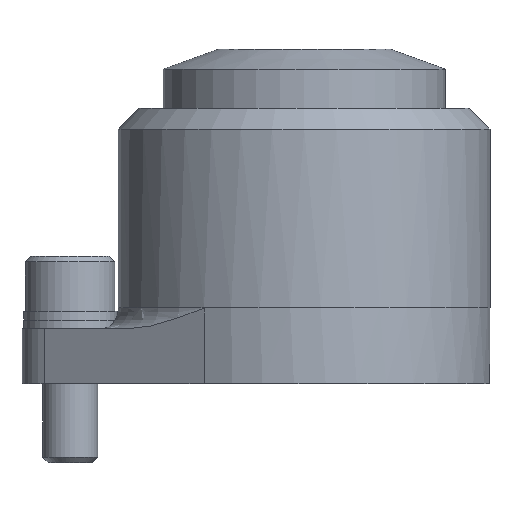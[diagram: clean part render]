
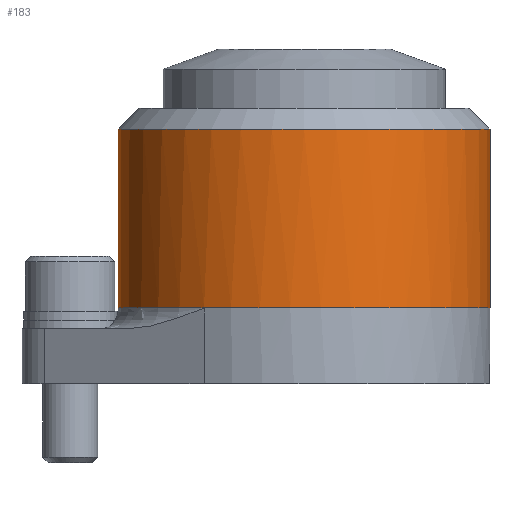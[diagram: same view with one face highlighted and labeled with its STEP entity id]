
A CAD part, front view. The second image highlights one B-rep face of the part: STEP entity #183.
In plain terms, the highlighted cylindrical face has radius 27 mm (diameter 54 mm), a partial arc.
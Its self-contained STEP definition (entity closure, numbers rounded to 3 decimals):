
#183=ADVANCED_FACE('',(#294),#256,.T.);
#256=CYLINDRICAL_SURFACE('',#1296,27.);
#294=FACE_OUTER_BOUND('',#356,.T.);
#356=EDGE_LOOP('',(#559,#560,#561,#562,#563));
#440=CIRCLE('',#1271,27.);
#458=CIRCLE('',#1294,27.);
#459=CIRCLE('',#1295,27.);
#559=ORIENTED_EDGE('',*,*,#963,.T.);
#560=ORIENTED_EDGE('',*,*,#988,.T.);
#561=ORIENTED_EDGE('',*,*,#989,.F.);
#562=ORIENTED_EDGE('',*,*,#986,.F.);
#563=ORIENTED_EDGE('',*,*,#990,.T.);
#857=VERTEX_POINT('',#1835);
#858=VERTEX_POINT('',#1837);
#876=VERTEX_POINT('',#1881);
#877=VERTEX_POINT('',#1883);
#878=VERTEX_POINT('',#1885);
#963=EDGE_CURVE('',#858,#857,#440,.T.);
#986=EDGE_CURVE('',#876,#877,#1132,.T.);
#988=EDGE_CURVE('',#857,#878,#1133,.T.);
#989=EDGE_CURVE('',#877,#878,#458,.T.);
#990=EDGE_CURVE('',#876,#858,#459,.T.);
#1132=LINE('',#1882,#1204);
#1133=LINE('',#1886,#1205);
#1204=VECTOR('',#1485,1.);
#1205=VECTOR('',#1488,1.);
#1271=AXIS2_PLACEMENT_3D('',#1836,#1437,#1438);
#1294=AXIS2_PLACEMENT_3D('',#1888,#1491,#1492);
#1295=AXIS2_PLACEMENT_3D('',#1889,#1493,#1494);
#1296=AXIS2_PLACEMENT_3D('',#1890,#1495,#1496);
#1437=DIRECTION('',(0.,0.,1.));
#1438=DIRECTION('',(-1.,0.,0.));
#1485=DIRECTION('',(0.,0.,1.));
#1488=DIRECTION('',(0.,0.,1.));
#1491=DIRECTION('',(0.,0.,1.));
#1492=DIRECTION('',(0.,1.,0.));
#1493=DIRECTION('',(0.,0.,1.));
#1494=DIRECTION('',(0.,1.,0.));
#1495=DIRECTION('',(0.,0.,1.));
#1496=DIRECTION('',(0.,-1.,0.));
#1835=CARTESIAN_POINT('',(27.,0.,11.));
#1836=CARTESIAN_POINT('',(0.,0.,11.));
#1837=CARTESIAN_POINT('',(-14.544,-22.748,11.));
#1881=CARTESIAN_POINT('',(-27.,0.,11.));
#1882=CARTESIAN_POINT('',(-27.,0.,37.));
#1883=CARTESIAN_POINT('',(-27.,0.,37.));
#1885=CARTESIAN_POINT('',(27.,0.,37.));
#1886=CARTESIAN_POINT('',(27.,0.,37.));
#1888=CARTESIAN_POINT('',(0.,0.,37.));
#1889=CARTESIAN_POINT('',(0.,0.,11.));
#1890=CARTESIAN_POINT('',(0.,0.,0.));
